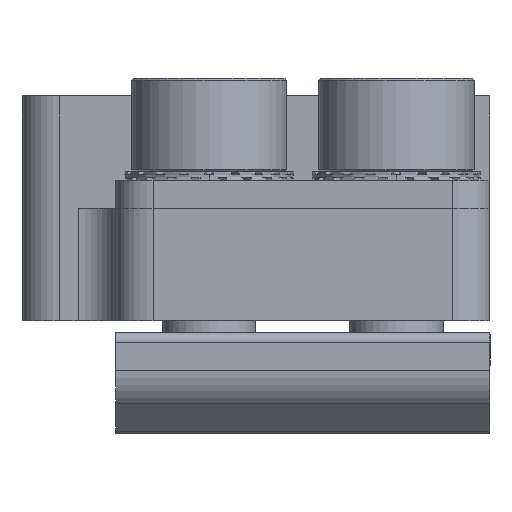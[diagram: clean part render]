
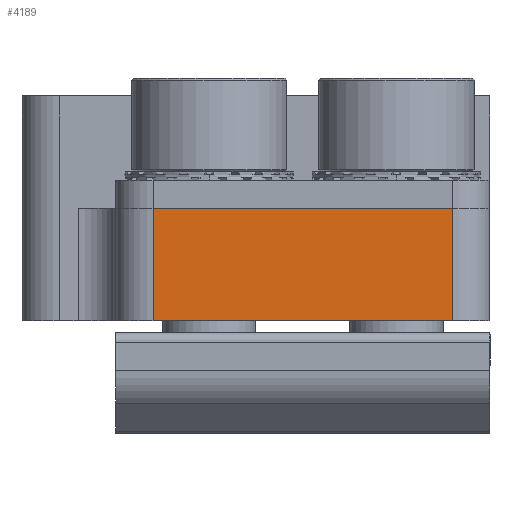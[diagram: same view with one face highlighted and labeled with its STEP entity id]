
A CAD part, front view. The second image highlights one B-rep face of the part: STEP entity #4189.
In plain terms, the highlighted planar face has unit normal (0, -1, 0).
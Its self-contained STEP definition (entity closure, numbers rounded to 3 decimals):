
#82 = DIRECTION ( 'NONE',  ( -1., 0., 0. ) ) ;
#1256 = DIRECTION ( 'NONE',  ( 1., 0., 0. ) ) ;
#1406 = DIRECTION ( 'NONE',  ( 0., 0., 1. ) ) ;
#1598 = LINE ( 'NONE', #6584, #11116 ) ;
#1947 = LINE ( 'NONE', #31568, #18319 ) ;
#2142 = EDGE_LOOP ( 'NONE', ( #22727, #11259, #4573, #12763 ) ) ;
#2725 = CARTESIAN_POINT ( 'NONE',  ( -8., -65., 6. ) ) ;
#2994 = CARTESIAN_POINT ( 'NONE',  ( -8., -65., 0. ) ) ;
#3652 = DIRECTION ( 'NONE',  ( 0., 1., 0. ) ) ;
#4189 = ADVANCED_FACE ( 'NONE', ( #6121 ), #30121, .F. ) ;
#4573 = ORIENTED_EDGE ( 'NONE', *, *, #23156, .T. ) ;
#5757 = CARTESIAN_POINT ( 'NONE',  ( 8., -65., 0. ) ) ;
#6121 = FACE_OUTER_BOUND ( 'NONE', #2142, .T. ) ;
#6584 = CARTESIAN_POINT ( 'NONE',  ( 8., -65., 6. ) ) ;
#9711 = VERTEX_POINT ( 'NONE', #11478 ) ;
#11116 = VECTOR ( 'NONE', #16000, 1000. ) ;
#11259 = ORIENTED_EDGE ( 'NONE', *, *, #24451, .T. ) ;
#11478 = CARTESIAN_POINT ( 'NONE',  ( 8., -65., 6. ) ) ;
#12158 = VERTEX_POINT ( 'NONE', #2994 ) ;
#12763 = ORIENTED_EDGE ( 'NONE', *, *, #25466, .T. ) ;
#14639 = LINE ( 'NONE', #19373, #17708 ) ;
#15707 = EDGE_CURVE ( 'NONE', #9711, #23479, #1947, .T. ) ;
#16000 = DIRECTION ( 'NONE',  ( 0., 0., 1. ) ) ;
#17708 = VECTOR ( 'NONE', #19682, 1000. ) ;
#18319 = VECTOR ( 'NONE', #82, 1000. ) ;
#18410 = CARTESIAN_POINT ( 'NONE',  ( 10., -65., 0. ) ) ;
#19373 = CARTESIAN_POINT ( 'NONE',  ( -8., -65., 0. ) ) ;
#19682 = DIRECTION ( 'NONE',  ( 0., 0., -1. ) ) ;
#22727 = ORIENTED_EDGE ( 'NONE', *, *, #15707, .T. ) ;
#23156 = EDGE_CURVE ( 'NONE', #12158, #31110, #25455, .T. ) ;
#23479 = VERTEX_POINT ( 'NONE', #2725 ) ;
#23576 = VECTOR ( 'NONE', #1256, 1000. ) ;
#24451 = EDGE_CURVE ( 'NONE', #23479, #12158, #14639, .T. ) ;
#25455 = LINE ( 'NONE', #18410, #23576 ) ;
#25466 = EDGE_CURVE ( 'NONE', #31110, #9711, #1598, .T. ) ;
#28312 = AXIS2_PLACEMENT_3D ( 'NONE', #30334, #3652, #1406 ) ;
#30121 = PLANE ( 'NONE',  #28312 ) ;
#30334 = CARTESIAN_POINT ( 'NONE',  ( 0., -65., 0. ) ) ;
#31110 = VERTEX_POINT ( 'NONE', #5757 ) ;
#31568 = CARTESIAN_POINT ( 'NONE',  ( -10., -65., 6. ) ) ;
